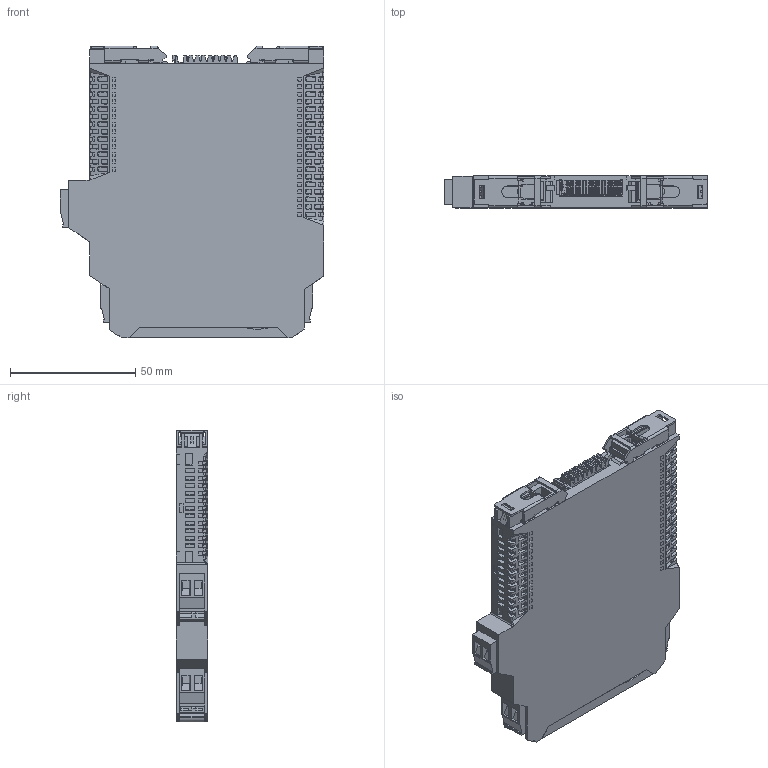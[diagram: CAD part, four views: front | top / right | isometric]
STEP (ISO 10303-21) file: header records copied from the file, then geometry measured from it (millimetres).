
FILE_DESCRIPTION((''),'2;1');
FILE_NAME('D:\ТЗ\Для отдела рекламы\БИГ\БИГ-2-2-11.stp','2024-07-08T11:34:27',('A.V.Dzhibladze'),(''),'Autodesk Inventor 2012','Autodesk Inventor 2012','');
FILE_SCHEMA(('AUTOMOTIVE_DESIGN { 1 2 10303 214 0 1 1 1 }'));
Length unit declared in the file: millimetre
Products named in the file (1): БИГ-2-2-11
Bounding box: 105.4 x 12.75 x 116.55 mm (x, y, z)
Volume: 130360.4 mm3; surface area: 36235.6 mm2
Topology: 2 solids, 9 shells, 2908 faces, 8170 edges, 5371 vertices
Faces by surface type: plane 2164, cylinder 677, bspline 52, sphere 6, torus 5, cone 4
Full cylindrical faces by diameter (mm): 2 x2, 2.05 x2, 2.7 x1, 3.6 x6
Entity records: 98028 total; most frequent: CARTESIAN_POINT 20332, ORIENTED_EDGE 16266, DIRECTION 14944, EDGE_CURVE 8133, VECTOR 6450, LINE 6450, VERTEX_POINT 5355, AXIS2_PLACEMENT_3D 4247
